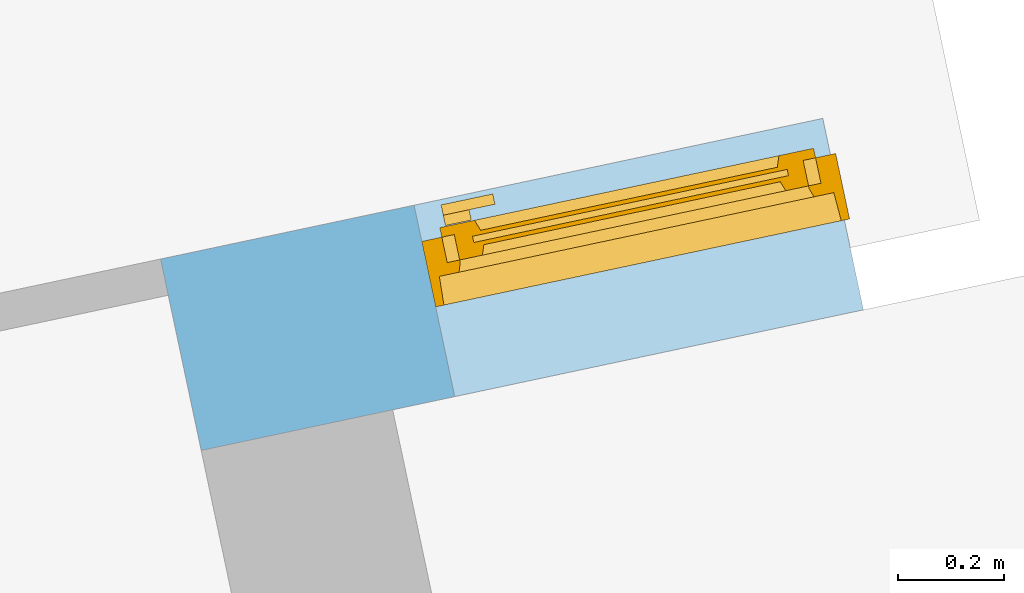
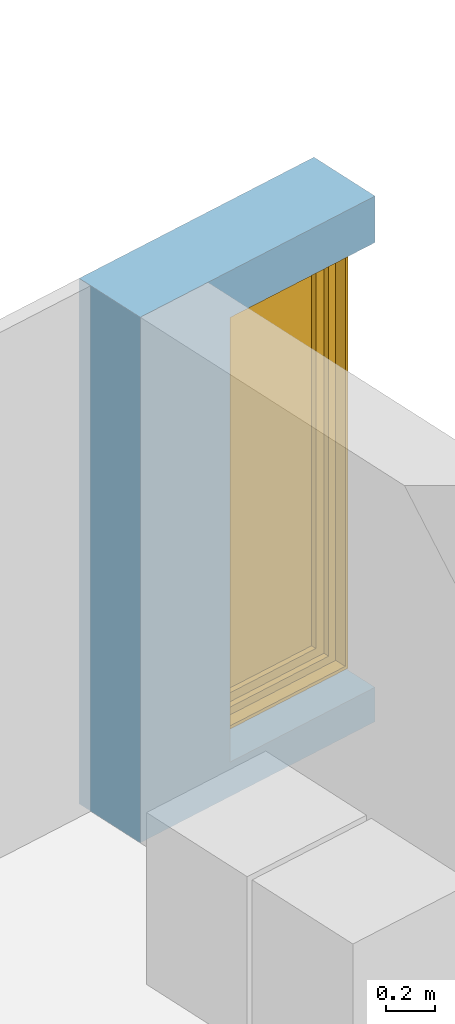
"""IFC2X3 building model written with IfcOpenShell, lengths in centimetres."""

from ifc_helpers import new_model, entity, si_unit, converted_unit, derived_unit, direction, frame, frame_2d, origin, place, context, subcontext, project, spatial, rectangle, extrude, faceted_brep, source, transform, mapped, material, material_list, layer, layer_set, layer_usage, type_object, type_shapes, element, fill, save


model = new_model("IFC2X3")

# Units and contexts
model_context = context("Model", 3, precision=0.001, world=origin(), true_north=direction((6.12303176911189e-17, 1.0)))
body_context = subcontext(model_context, "Body", "Model", "MODEL_VIEW")
ifc_project = project(units=[si_unit("LENGTHUNIT", "METRE", prefix="CENTI"), si_unit("AREAUNIT", "SQUARE_METRE"), si_unit("VOLUMEUNIT", "CUBIC_METRE"), converted_unit("PLANEANGLEUNIT", "DEGREE", entity("IfcRatioMeasure", 0.0174532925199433), si_unit("PLANEANGLEUNIT", "RADIAN"), dimensions=[0, 0, 0, 0, 0, 0, 0]), si_unit("MASSUNIT", "GRAM", prefix="KILO"), derived_unit("MASSDENSITYUNIT", [(si_unit("MASSUNIT", "GRAM", prefix="KILO"), 1), (si_unit("LENGTHUNIT", "METRE"), -3)]), derived_unit("IONCONCENTRATIONUNIT", [(si_unit("MASSUNIT", "GRAM", prefix="KILO"), 1), (si_unit("LENGTHUNIT", "METRE"), -3)]), derived_unit("MOMENTOFINERTIAUNIT", [(si_unit("LENGTHUNIT", "METRE"), 4)]), si_unit("TIMEUNIT", "SECOND"), si_unit("FREQUENCYUNIT", "HERTZ"), si_unit("THERMODYNAMICTEMPERATUREUNIT", "DEGREE_CELSIUS"), derived_unit("THERMALTRANSMITTANCEUNIT", [(si_unit("MASSUNIT", "GRAM", prefix="KILO"), 1), (si_unit("THERMODYNAMICTEMPERATUREUNIT", "KELVIN"), -1), (si_unit("TIMEUNIT", "SECOND"), -3)]), derived_unit("THERMALCONDUCTANCEUNIT", [(si_unit("MASSUNIT", "GRAM", prefix="KILO"), 1), (si_unit("THERMODYNAMICTEMPERATUREUNIT", "KELVIN"), -1), (si_unit("TIMEUNIT", "SECOND"), -3), (si_unit("LENGTHUNIT", "METRE"), 1)]), derived_unit("VOLUMETRICFLOWRATEUNIT", [(si_unit("LENGTHUNIT", "METRE"), 3), (si_unit("TIMEUNIT", "SECOND"), -1)]), derived_unit("MASSFLOWRATEUNIT", [(si_unit("MASSUNIT", "GRAM", prefix="KILO"), 1), (si_unit("TIMEUNIT", "SECOND"), -1)]), derived_unit("ROTATIONALFREQUENCYUNIT", [(si_unit("TIMEUNIT", "SECOND"), -1)]), si_unit("ELECTRICCURRENTUNIT", "AMPERE"), si_unit("ELECTRICVOLTAGEUNIT", "VOLT"), si_unit("POWERUNIT", "WATT"), si_unit("FORCEUNIT", "NEWTON", prefix="KILO"), si_unit("ILLUMINANCEUNIT", "LUX"), si_unit("LUMINOUSFLUXUNIT", "LUMEN"), si_unit("LUMINOUSINTENSITYUNIT", "CANDELA"), derived_unit("USERDEFINED", [(si_unit("MASSUNIT", "GRAM", prefix="KILO"), -1), (si_unit("LENGTHUNIT", "METRE"), -2), (si_unit("TIMEUNIT", "SECOND"), 3), (si_unit("LUMINOUSFLUXUNIT", "LUMEN"), 1)]), derived_unit("USERDEFINED", [(si_unit("MASSUNIT", "GRAM", prefix="KILO"), 1), (si_unit("TIMEUNIT", "SECOND"), -3), (si_unit("LENGTHUNIT", "METRE"), 3), (si_unit("ELECTRICCURRENTUNIT", "AMPERE"), -2)]), derived_unit("SOUNDPOWERUNIT", [(si_unit("MASSUNIT", "GRAM", prefix="KILO"), 1), (si_unit("TIMEUNIT", "SECOND"), -3), (si_unit("LENGTHUNIT", "METRE"), 2)]), derived_unit("SOUNDPRESSUREUNIT", [(si_unit("MASSUNIT", "GRAM", prefix="KILO"), 1), (si_unit("LENGTHUNIT", "METRE"), -1), (si_unit("TIMEUNIT", "SECOND"), -2)]), derived_unit("LINEARVELOCITYUNIT", [(si_unit("LENGTHUNIT", "METRE"), 1), (si_unit("TIMEUNIT", "SECOND"), -1)]), si_unit("PRESSUREUNIT", "PASCAL"), derived_unit("USERDEFINED", [(si_unit("MASSUNIT", "GRAM", prefix="KILO"), 1), (si_unit("LENGTHUNIT", "METRE"), -2), (si_unit("TIMEUNIT", "SECOND"), -2)]), derived_unit("LINEARFORCEUNIT", [(si_unit("MASSUNIT", "GRAM", prefix="KILO"), 1), (si_unit("TIMEUNIT", "SECOND"), -2)]), derived_unit("PLANARFORCEUNIT", [(si_unit("MASSUNIT", "GRAM", prefix="KILO"), 1), (si_unit("LENGTHUNIT", "METRE"), -1), (si_unit("TIMEUNIT", "SECOND"), -2)]), derived_unit("SPECIFICHEATCAPACITYUNIT", [(si_unit("THERMODYNAMICTEMPERATUREUNIT", "KELVIN"), -1), (si_unit("LENGTHUNIT", "METRE"), 2), (si_unit("TIMEUNIT", "SECOND"), -2)]), derived_unit("HEATINGVALUEUNIT", [(si_unit("LENGTHUNIT", "METRE"), 2), (si_unit("TIMEUNIT", "SECOND"), -2)]), derived_unit("VAPORPERMEABILITYUNIT", [(si_unit("LENGTHUNIT", "METRE"), -1), (si_unit("TIMEUNIT", "SECOND"), 1)]), derived_unit("DYNAMICVISCOSITYUNIT", [(si_unit("MASSUNIT", "GRAM", prefix="KILO"), 1), (si_unit("TIMEUNIT", "SECOND"), -1), (si_unit("LENGTHUNIT", "METRE"), -1)]), derived_unit("THERMALEXPANSIONCOEFFICIENTUNIT", [(si_unit("THERMODYNAMICTEMPERATUREUNIT", "KELVIN"), -1)]), derived_unit("MODULUSOFELASTICITYUNIT", [(si_unit("MASSUNIT", "GRAM", prefix="KILO"), 1), (si_unit("LENGTHUNIT", "METRE"), -1), (si_unit("TIMEUNIT", "SECOND"), -2)]), derived_unit("ISOTHERMALMOISTURECAPACITYUNIT", [(si_unit("LENGTHUNIT", "METRE"), 3), (si_unit("MASSUNIT", "GRAM", prefix="KILO"), -1)]), derived_unit("MOISTUREDIFFUSIVITYUNIT", [(si_unit("TIMEUNIT", "SECOND"), -1), (si_unit("LENGTHUNIT", "METRE"), 2)])], contexts=[model_context])

# Site, building, storey
site_placement = place(None, frame((14083.8920177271, -6853.25409548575, 6900.0), z_axis=(0.0, 0.0, 1.0), x_axis=(0.978188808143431, 0.207717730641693, 0.0)))
site = spatial("IfcSite", under=ifc_project, at=site_placement, Name="Surface", CompositionType="ELEMENT")
building_placement = place(site_placement, origin())
building = spatial("IfcBuilding", under=site, at=building_placement, CompositionType="ELEMENT")
storey_1_placement = place(building_placement, origin())
storey_1 = spatial("IfcBuildingStorey", under=building, at=storey_1_placement, Name="_Rez de chaussée Séjour", CompositionType="ELEMENT", Elevation=2.07727662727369e-10)

# Wall, opening
ifc_material_1 = material(Name="__ PIERRE______________________TEST")
ifc_layer_1 = layer(ifc_material_1, 2.0)
ifc_material_2 = material(Name="__ BETON_parpaings")
ifc_layer_2 = layer(ifc_material_2, 20.0)
ifc_material_3 = material(Name="__ ISOLANT (pat 1)")
ifc_layer_3 = layer(ifc_material_3, 13.0)
ifc_material_4 = material(Name="__ ENDUIT_Blanc")
ifc_layer_4 = layer(ifc_material_4, 2.0)
ifc_layer_set = layer_set([ifc_layer_1, ifc_layer_2, ifc_layer_3, ifc_layer_4], Name="Mur de base:*BRIQUE 37 (20 +INT 13+2 + EXT 2) (Iso+BA13)(parement)")
ifc_layer_usage = layer_usage(ifc_layer_set, "AXIS2", "NEGATIVE", 18.5)
wall_type = type_object("IfcWallType", Name="Mur de base:*BRIQUE 37 (20 +INT 13+2 + EXT 2) (Iso+BA13)(parement)", PredefinedType="STANDARD", material=ifc_layer_set)
wall_placement = place(storey_1_placement, frame((-5859.81321908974, 15179.1673447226, 0.0), z_axis=(0.0, 0.0, 1.0), x_axis=(-1.0, 0.0, 0.0)))
wall = element("IfcWallStandardCase", 1, at=wall_placement, inside=storey_1, type_object=wall_type, material=ifc_layer_usage, Name="Mur de base:*BRIQUE 37 (20 +INT 13+2 + EXT 2) (Iso+BA13)(parement)", ObjectType="Mur de base:*BRIQUE 37 (20 +INT 13+2 + EXT 2) (Iso+BA13)(parement)", context=body_context, shape_type="SweptSolid", body=[
    extrude(rectangle(XDim=128.000000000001, YDim=37.0000000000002, at=frame_2d((64.0000000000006, -8.66862137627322e-13), x_axis=(-1.0, 0.0))), origin(), (0.0, 0.0, 1.0), 259.999999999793),
])
opening_placement = place(wall_placement, frame((79.0, 21.0, 11.3850445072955), z_axis=(0.0, 0.0, 1.0), x_axis=(-1.0, 0.0, 0.0)))
opening = element("IfcOpeningElement", 2, at=opening_placement, cuts=wall, Name="Mur de base:*BRIQUE 37 (20 +INT 13+2 + EXT 2) (Iso+BA13)(parement)", ObjectType="Opening", context=body_context, shape_type="Brep", body=[
    faceted_brep([(0.0, 39.5000000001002, 225.614955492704), (80.0, 39.5000000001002, 225.614955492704), (80.0, 39.5000000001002, 5.61495549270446), (0.0, 39.5000000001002, 5.61495549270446), (0.0, 2.50000000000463, 225.614955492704), (0.0, 2.50000000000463, 5.61495549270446), (79.8999999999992, 2.50000000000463, 5.61495549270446), (80.0, 2.50000000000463, 5.61495549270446), (80.0, 2.50000000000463, 225.614955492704), (0.0, 34.2000000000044, 225.614955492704), (0.0, 34.2000000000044, 225.714955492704), (0.0, 34.3000000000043, 225.714955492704), (0.0, 34.3000000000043, 225.614955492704), (80.0, 33.0, 5.61495549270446), (79.8999999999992, 33.0, 5.61495549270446), (80.0, 34.3000000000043, 225.614955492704), (80.0, 34.3000000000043, 225.714955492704), (80.0, 34.2000000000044, 225.714955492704), (80.0, 34.2000000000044, 225.614955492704), (80.0, 14.3000000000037, 225.614955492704), (80.0, 14.3000000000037, 225.714955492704), (80.0, 14.2000000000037, 225.714955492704), (80.0, 14.2000000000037, 225.614955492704), (80.0, 0.0, 5.61495549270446), (80.0, 0.0, 0.0), (80.0, 30.502511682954, 2.11559678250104), (80.0, 33.0, 2.11559678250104), (79.8999999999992, 30.5025116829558, 2.11559678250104), (79.8999999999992, 0.0, 0.0), (79.8999999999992, 0.0, 5.61495549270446), (79.8999999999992, 33.0, 2.11559678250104), (79.8999999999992, 14.3000000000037, 225.714955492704), (79.8999999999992, 14.3000000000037, 225.614955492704), (79.8999999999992, 14.2000000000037, 225.614955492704), (79.8999999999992, 14.2000000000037, 225.714955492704)], [[[0, 1, 2, 3]], [[4, 5, 6, 7, 8]], [[0, 3, 5, 4, 9, 10, 11, 12]], [[3, 2, 13, 14, 6, 5]], [[2, 1, 15, 16, 17, 18, 19, 20, 21, 22, 8, 7, 23, 24, 25, 26, 13]], [[1, 0, 12, 15]], [[27, 28, 29, 6, 14, 30]], [[27, 30, 26, 25]], [[30, 14, 13, 26]], [[29, 23, 7, 6]], [[29, 28, 24, 23]], [[28, 27, 25, 24]], [[31, 32, 33, 34]], [[31, 34, 21, 20]], [[34, 33, 22, 21]], [[32, 31, 20, 19]], [[12, 11, 16, 15]], [[11, 10, 17, 16]], [[10, 9, 18, 17]], [[4, 8, 22, 33, 32, 19, 18, 9]]]),
])

# Storey
storey_2_placement = place(building_placement, frame((0.0, 0.0, 17.0)))
storey_2 = spatial("IfcBuildingStorey", under=building, at=storey_2_placement, Name="Rez de chaussée", CompositionType="ELEMENT", Elevation=17.0000000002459)

# Window
ifc_material_5 = material(Name="<Unnamed>")
ifc_material_6 = material(Name="Fenêtre - Vitrage")
ifc_material_7 = material(Name="__ METAL_gris foncé (menuiseries acier)______________________TEST")
ifc_material_list = material_list([ifc_material_5, ifc_material_6, ifc_material_7])
window_style = type_object("IfcWindowStyle", Name="*PVC 1 VANTAIL:PF 80*220+VR", ConstructionType="NOTDEFINED", OperationType="NOTDEFINED", ParameterTakesPrecedence=False, Sizeable=False, material=ifc_material_list)
shared_shape = source(origin(), body_context, "Body", "Brep", [
    faceted_brep([(150.0, 1.0, 93.6149554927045), (150.0, 3.0, 93.6149554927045), (140.0, 3.0, 93.6149554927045), (140.0, 1.0, 93.6149554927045), (150.0, 1.0, 91.6149554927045), (140.0, 1.0, 91.6149554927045), (140.0, 3.0, 91.6149554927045), (150.0, 3.0, 91.6149554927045)], [[[0, 1, 2, 3]], [[4, 5, 6, 7]], [[3, 5, 4, 0]], [[2, 6, 5, 3]], [[1, 7, 6, 2]], [[0, 4, 7, 1]]]),
    faceted_brep([(150.0, 3.0, 95.6149554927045), (150.0, 5.0, 95.6149554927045), (145.0, 5.0, 95.6149554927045), (145.0, 3.0, 95.6149554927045), (150.0, 3.0, 90.6149554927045), (145.0, 3.0, 90.6149554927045), (145.0, 5.0, 90.6149554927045), (150.0, 5.0, 90.6149554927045)], [[[0, 1, 2, 3]], [[4, 5, 6, 7]], [[3, 5, 4, 0]], [[2, 6, 5, 3]], [[1, 7, 6, 2]], [[0, 4, 7, 1]]]),
    faceted_brep([(145.416484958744, 7.25296298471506, 216.031440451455), (145.416484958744, 8.03717831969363, 216.031440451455), (84.5835150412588, 8.03717831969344, 216.031440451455), (84.5835150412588, 7.25296298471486, 216.031440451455), (145.416484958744, 7.25296298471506, 15.198470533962), (84.5835150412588, 7.25296298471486, 15.198470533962), (84.5835150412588, 8.03717831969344, 15.198470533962), (145.416484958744, 8.03717831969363, 15.198470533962)], [[[0, 1, 2, 3]], [[4, 5, 6, 7]], [[3, 5, 4, 0]], [[2, 6, 5, 3]], [[1, 7, 6, 2]], [[0, 4, 7, 1]]]),
    faceted_brep([(84.5835150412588, 9.2397388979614, 216.031440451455), (84.5835150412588, 9.2397388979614, 15.198470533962), (145.416484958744, 9.2397388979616, 15.198470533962), (145.416484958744, 9.2397388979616, 216.031440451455), (84.5835150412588, 10.0397388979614, 216.031440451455), (84.5835150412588, 10.0397388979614, 15.198470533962), (145.416484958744, 10.0397388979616, 216.031440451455), (145.416484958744, 10.0397388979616, 15.198470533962)], [[[0, 1, 2, 3]], [[4, 5, 1, 0]], [[6, 7, 5, 4]], [[3, 2, 7, 6]], [[2, 1, 5, 7]], [[3, 6, 4, 0]]]),
    faceted_brep([(84.5835150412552, 7.25296298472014, 216.031440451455), (84.5835150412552, 7.25296298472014, 15.1984705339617), (84.5835150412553, 10.0397388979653, 15.1984705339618), (84.5835150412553, 10.0397388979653, 216.031440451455), (85.5691641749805, 5.15897052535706, 215.04579131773), (85.5691641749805, 5.15897052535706, 16.184119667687), (86.3313151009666, 7.25296298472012, 16.9462705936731), (86.3313151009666, 7.25296298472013, 214.283640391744), (78.8763363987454, 7.00296298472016, 221.738619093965), (78.8763363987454, 7.00296298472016, 9.49129189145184), (78.8763363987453, 5.15897052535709, 9.49129189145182), (78.8763363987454, 5.15897052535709, 221.738619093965), (81.2863363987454, 11.9191241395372, 219.328619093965), (81.2863363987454, 11.9191241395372, 11.9012918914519), (81.2863363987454, 7.00296298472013, 11.9012918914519), (81.2863363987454, 7.00296298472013, 219.328619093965), (86.3540380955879, 10.0397388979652, 214.260917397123), (86.3540380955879, 10.0397388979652, 16.9689935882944), (85.6699978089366, 11.9191241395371, 16.284953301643), (85.6699978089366, 11.9191241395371, 214.944957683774), (145.416484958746, 7.25296298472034, 15.1984705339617), (145.416484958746, 10.0397388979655, 15.1984705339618), (144.430835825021, 5.15897052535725, 16.184119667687), (143.668684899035, 7.2529629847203, 16.9462705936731), (151.123663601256, 7.00296298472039, 9.49129189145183), (151.123663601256, 5.15897052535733, 9.4912918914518), (148.713663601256, 11.9191241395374, 11.9012918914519), (148.713663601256, 7.00296298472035, 11.9012918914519), (143.645961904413, 10.0397388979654, 16.9689935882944), (144.330002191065, 11.9191241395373, 16.2849533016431), (145.416484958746, 7.25296298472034, 216.031440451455), (145.416484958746, 10.0397388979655, 216.031440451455), (144.430835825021, 5.15897052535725, 215.04579131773), (143.668684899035, 7.25296298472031, 214.283640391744), (151.123663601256, 7.00296298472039, 221.738619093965), (151.123663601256, 5.15897052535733, 221.738619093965), (148.713663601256, 11.9191241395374, 219.328619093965), (148.713663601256, 7.00296298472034, 219.328619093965), (143.645961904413, 10.0397388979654, 214.260917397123), (144.330002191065, 11.9191241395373, 214.944957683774)], [[[0, 1, 2, 3]], [[4, 5, 6, 7]], [[8, 9, 10, 11]], [[12, 13, 14, 15]], [[16, 17, 18, 19]], [[1, 20, 21, 2]], [[5, 22, 23, 6]], [[9, 24, 25, 10]], [[13, 26, 27, 14]], [[17, 28, 29, 18]], [[20, 30, 31, 21]], [[22, 32, 33, 23]], [[24, 34, 35, 25]], [[26, 36, 37, 27]], [[28, 38, 39, 29]], [[30, 0, 3, 31]], [[7, 6, 23, 33], [1, 0, 30, 20]], [[32, 4, 7, 33]], [[11, 10, 25, 35], [5, 4, 32, 22]], [[34, 8, 11, 35]], [[15, 14, 27, 37], [9, 8, 34, 24]], [[36, 12, 15, 37]], [[19, 18, 29, 39], [13, 12, 36, 26]], [[38, 16, 19, 39]], [[3, 2, 21, 31], [17, 16, 38, 28]]], outer=[[True], [True], [True], [True], [True], [True], [True], [True], [True], [True], [True], [True], [True], [True], [True], [True], [False, True], [True], [True, False], [True], [False, True], [True], [False, True], [True], [True, False]]),
    faceted_brep([(75.0, 19.6482873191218, 225.614955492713), (75.0, 7.0, 225.614955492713), (155.0, 7.0, 225.614955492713), (155.0, 19.6482873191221, 225.614955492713), (153.409026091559, 19.6482873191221, 225.614955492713), (153.121178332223, 14.1558248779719, 225.614955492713), (76.8788216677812, 14.1558248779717, 225.614955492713), (76.590973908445, 19.648287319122, 225.614955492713), (155.0, 7.0, 5.61495549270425), (155.0, 19.6482873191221, 5.61495549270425), (75.0, 19.6482873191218, 5.61495549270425), (76.590973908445, 19.648287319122, 7.20592940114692), (153.409026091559, 19.6482873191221, 7.2059294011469), (153.121178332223, 14.1558248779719, 7.4937771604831), (76.8788216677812, 14.1558248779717, 7.49377716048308), (80.6883423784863, 14.1558248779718, 11.3032978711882), (149.311657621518, 14.1558248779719, 11.3032978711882), (149.311657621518, 14.1558248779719, 219.926613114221), (80.6883423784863, 14.1558248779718, 219.926613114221), (148.713663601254, 12.4191241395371, 11.9012918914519), (148.713663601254, 12.4191241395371, 219.328619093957), (148.713663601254, 11.9191241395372, 11.9012918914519), (148.713663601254, 11.9191241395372, 219.328619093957), (151.123076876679, 11.9191241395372, 9.49187861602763), (151.123076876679, 11.9191241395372, 221.738032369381), (78.8769231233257, 11.9191241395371, 221.738032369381), (78.8769231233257, 11.9191241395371, 9.49187861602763), (81.28633639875, 11.919124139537, 11.9012918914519), (81.28633639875, 11.919124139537, 219.328619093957), (151.123076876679, 7.0, 9.49187861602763), (151.123076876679, 7.0, 221.738032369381), (75.0, 7.0, 5.61495549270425), (78.8769231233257, 7.0, 9.49187861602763), (78.8769231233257, 7.0, 221.738032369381), (81.28633639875, 12.4191241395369, 219.328619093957), (81.28633639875, 12.4191241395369, 11.9012918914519)], [[[0, 1, 2, 3, 4, 5, 6, 7]], [[8, 9, 3, 2]], [[3, 9, 10, 0, 7, 11, 12, 4]], [[4, 12, 13, 5]], [[5, 13, 14, 6], [15, 16, 17, 18]], [[19, 20, 17, 16]], [[21, 22, 20, 19]], [[23, 24, 25, 26], [21, 27, 28, 22]], [[29, 30, 24, 23]], [[1, 31, 8, 2], [29, 32, 33, 30]], [[33, 25, 24, 30]], [[28, 34, 20, 22]], [[17, 20, 34, 18]], [[26, 32, 29, 23]], [[19, 35, 27, 21]], [[15, 35, 19, 16]], [[11, 14, 13, 12]], [[8, 31, 10, 9]], [[25, 33, 32, 26]], [[35, 34, 28, 27]], [[15, 18, 34, 35]], [[14, 11, 7, 6]], [[10, 31, 1, 0]]]),
])
type_shapes(window_style, [shared_shape])
window_placement = place(opening_placement, frame((155.0, 39.5, 0.0), z_axis=(0.0, 0.0, 1.0), x_axis=(-1.0, 0.0, 0.0)))
window = element("IfcWindow", 3, at=window_placement, inside=storey_2, type_object=window_style, material=ifc_material_list, Name="*PVC 1 VANTAIL:PF 80*220+VR", ObjectType="*PVC 1 VANTAIL:PF 80*220+VR", OverallHeight=225.541560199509, OverallWidth=85.000000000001, context=body_context, shape_type="MappedRepresentation", body=[
    mapped(shared_shape, transform((0.0, 0.0, 0.0), scale=1.0)),
])

fill(opening, window)

save(model, "model.ifc")
